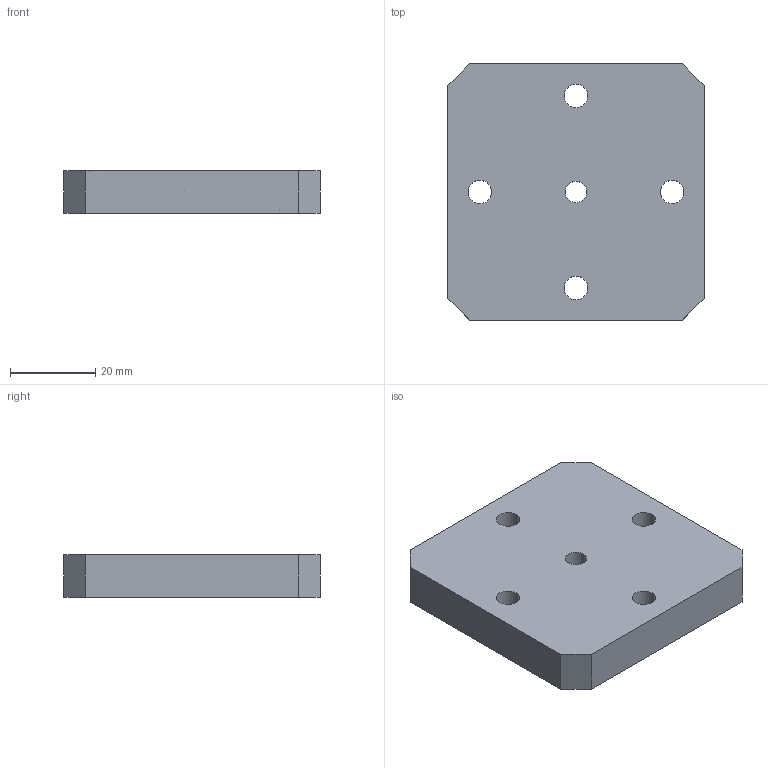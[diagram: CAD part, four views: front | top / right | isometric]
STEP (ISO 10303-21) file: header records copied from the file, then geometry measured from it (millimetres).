
FILE_DESCRIPTION(('CATIA V5 STEP Exchange'),'2;1');
FILE_NAME('D:\姚明阳\VDC压堵盖工具1\GZ22.01_V1.stp','2021-03-14T07:40:05+00:00',('none'),('none'),'CATIA Version 5 Release 21 GA (IN-10)','CATIA V5 STEP AP214','none');
FILE_SCHEMA(('AUTOMOTIVE_DESIGN { 1 0 10303 214 1 1 1 1 }'));
Length unit declared in the file: millimetre
Products named in the file (1): dizuo
Bounding box: 60 x 60 x 10 mm (x, y, z)
Volume: 34353.3 mm3; surface area: 10001.7 mm2
Topology: 1 solids, 1 shells, 20 faces, 54 edges, 36 vertices
Faces by surface type: cylinder 10, plane 10
Entity records: 635 total; most frequent: ORIENTED_EDGE 108, CARTESIAN_POINT 106, DIRECTION 84, EDGE_CURVE 54, AXIS2_PLACEMENT_3D 36, VERTEX_POINT 36, VECTOR 34, LINE 34
